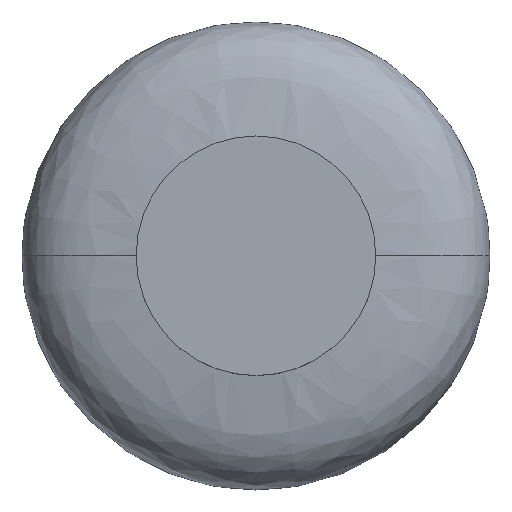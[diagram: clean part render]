
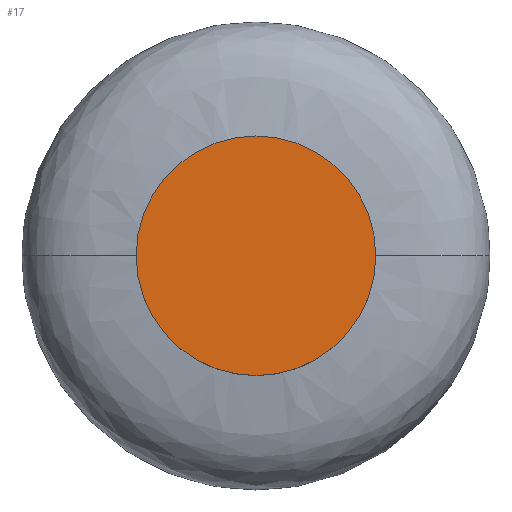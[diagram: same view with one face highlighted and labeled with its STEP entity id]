
A CAD part, top view. The second image highlights one B-rep face of the part: STEP entity #17.
In plain terms, the highlighted planar face has unit normal (0, 0, 1).
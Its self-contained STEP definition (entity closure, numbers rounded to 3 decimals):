
#17=ADVANCED_FACE('',(#23),#90,.T.);
#23=FACE_OUTER_BOUND('',#30,.T.);
#30=EDGE_LOOP('',(#42,#43));
#42=ORIENTED_EDGE('',*,*,#56,.T.);
#43=ORIENTED_EDGE('',*,*,#61,.T.);
#56=EDGE_CURVE('',#81,#85,#69,.T.);
#61=EDGE_CURVE('',#85,#81,#72,.T.);
#69=TRIMMED_CURVE($,#75,(#590),(#591),.T.,.CARTESIAN.);
#72=TRIMMED_CURVE($,#78,(#632),(#633),.T.,.CARTESIAN.);
#75=CIRCLE('',#186,64.);
#78=CIRCLE('',#189,64.);
#81=VERTEX_POINT('',#578);
#85=VERTEX_POINT('',#582);
#90=PLANE('',#183);
#183=AXIS2_PLACEMENT_3D('',#215,#196,$);
#186=AXIS2_PLACEMENT_3D($,#589,#200,#201);
#189=AXIS2_PLACEMENT_3D($,#631,#206,#207);
#196=DIRECTION('',(0.,0.,1.));
#200=DIRECTION('',(0.,0.,1.));
#201=DIRECTION('',(1.,0.,0.));
#206=DIRECTION('',(0.,0.,1.));
#207=DIRECTION('',(-1.,0.,0.));
#215=CARTESIAN_POINT('',(80.,80.,0.));
#578=CARTESIAN_POINT('',(64.,0.,0.));
#582=CARTESIAN_POINT('',(-64.,0.,0.));
#589=CARTESIAN_POINT('',(0.,0.,0.));
#590=CARTESIAN_POINT('',(64.,0.,0.));
#591=CARTESIAN_POINT('',(-64.,0.,0.));
#631=CARTESIAN_POINT('',(0.,0.,0.));
#632=CARTESIAN_POINT('',(-64.,0.,0.));
#633=CARTESIAN_POINT('',(64.,0.,0.));
